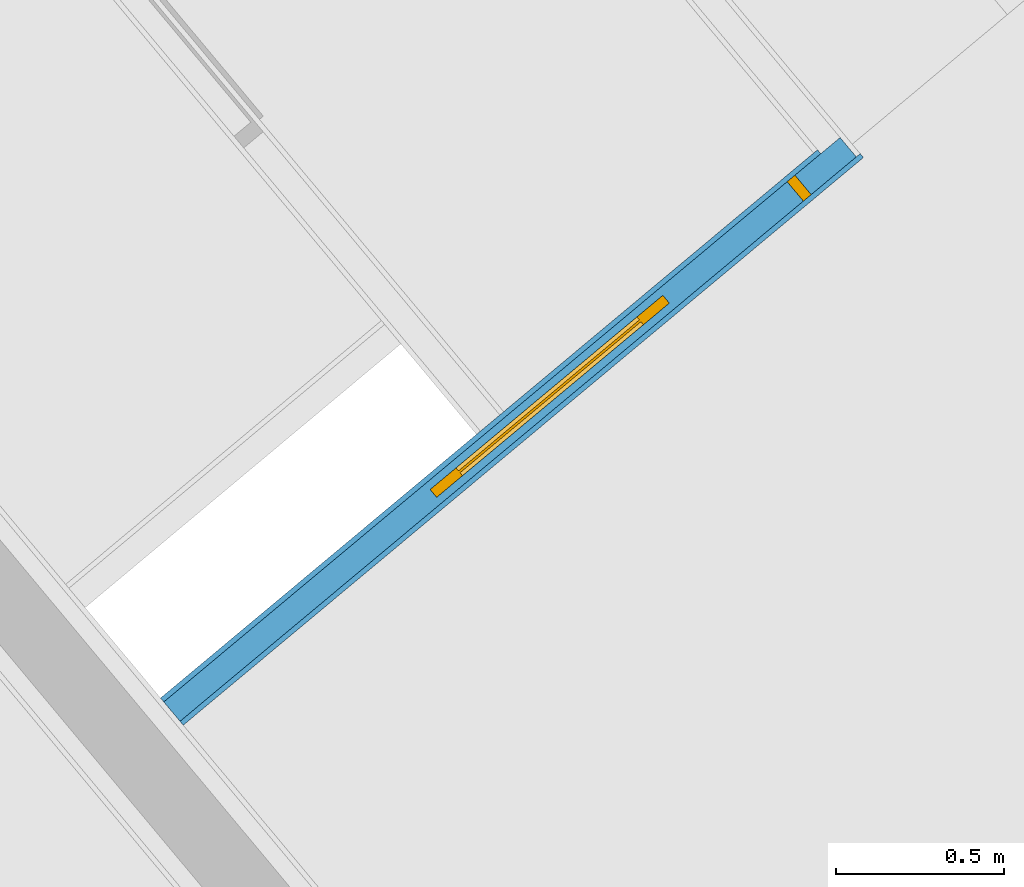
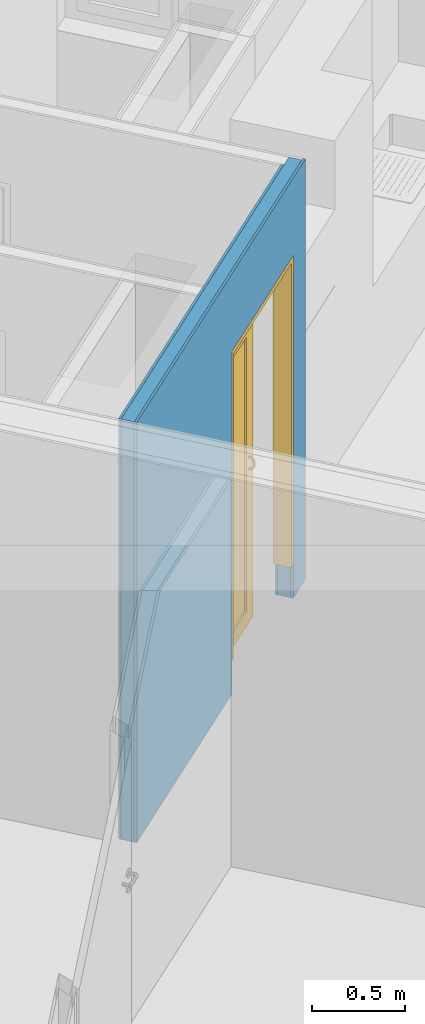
# One storey, part 15 of 75: 3 building element parts, 1 door, 1 opening, 1 element without a shape of its own.
"""IFC4 building model written with IfcOpenShell, lengths in metres."""

from ifc_helpers import new_model, entity, si_unit, converted_unit, derived_unit, direction, frame, origin_with_axes, place, context, subcontext, project, spatial, polygons, source, transform, mapped, material, type_object, element, fill, aggregate, save


model = new_model("IFC4")

# Units and contexts
model_context = context("Model", 3, precision=1e-05, world=origin_with_axes(), true_north=direction((0.0, 1.0)))
body_context = subcontext(model_context, "Body", "Model", "MODEL_VIEW")
ifc_project = project(units=[si_unit("LENGTHUNIT", "METRE"), si_unit("AREAUNIT", "SQUARE_METRE"), si_unit("VOLUMEUNIT", "CUBIC_METRE"), converted_unit("PLANEANGLEUNIT", "DEGREE", entity("IfcPlaneAngleMeasure", 0.0174532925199), si_unit("PLANEANGLEUNIT", "RADIAN"), dimensions=[0, 0, 0, 0, 0, 0, 0]), converted_unit("TIMEUNIT", "Year", entity("IfcTimeMeasure", 31556926.0), si_unit("TIMEUNIT", "SECOND"), dimensions=[0, 0, 1, 0, 0, 0, 0]), si_unit("MASSUNIT", "GRAM", prefix="KILO"), si_unit("THERMODYNAMICTEMPERATUREUNIT", "DEGREE_CELSIUS"), si_unit("LUMINOUSINTENSITYUNIT", "LUMEN"), si_unit("ENERGYUNIT", "JOULE", prefix="MEGA"), derived_unit("THERMALCONDUCTANCEUNIT", [(si_unit("POWERUNIT", "WATT"), 1), (si_unit("LENGTHUNIT", "METRE"), -1), (si_unit("THERMODYNAMICTEMPERATUREUNIT", "KELVIN"), -1)]), derived_unit("SPECIFICHEATCAPACITYUNIT", [(si_unit("ENERGYUNIT", "JOULE"), 1), (si_unit("MASSUNIT", "GRAM", prefix="KILO"), -1), (si_unit("THERMODYNAMICTEMPERATUREUNIT", "KELVIN"), -1)]), derived_unit("MASSDENSITYUNIT", [(si_unit("MASSUNIT", "GRAM", prefix="KILO"), 1), (si_unit("VOLUMEUNIT", "CUBIC_METRE"), -1)])], contexts=[model_context])

# Site, building, storey
site_placement = place(None, frame((-0.00153261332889, -0.00661245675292, 0.0), z_axis=(0.0, 0.0, 1.0), x_axis=(1.0, 0.0, 0.0)))
site = spatial("IfcSite", under=ifc_project, at=site_placement, Name="Gelände", CompositionType="ELEMENT")
building_placement = place(site_placement, origin_with_axes())
building = spatial("IfcBuilding", under=site, at=building_placement, Name="Gebäude", CompositionType="ELEMENT")
storey_placement = place(building_placement, frame((0.0, 0.0, -0.22), z_axis=(0.0, 0.0, 1.0), x_axis=(1.0, 0.0, 0.0)))
storey = spatial("IfcBuildingStorey", under=building, at=storey_placement, Name="EG", CompositionType="ELEMENT", Elevation=-0.22)

# Door
door_type = type_object("IfcDoorType", Name="Schiebetür 02 1-Fl 26", OperationType="SLIDING_TO_RIGHT", PredefinedType="NOTDEFINED")
shared_shape = source(origin_with_axes(), body_context, "Body", "Tessellation", [
    polygons([(-0.48, 0.0, 0.0), (-0.48, 0.0, 2.03), (0.48, 0.0, 2.03), (0.48, 0.0, 0.0), (0.45, 0.0, 0.0), (0.45, 0.0, 2.0), (-0.45, 0.0, 2.0), (-0.45, 0.0, 0.0)], [[[1, 2, 3, 4, 5, 6, 7, 8]]], closed=False),
    polygons([(-0.45, -0.09, 0.0), (-0.45, -0.09, 2.0), (-0.45, -0.105, 2.0), (-0.45, -0.105, 0.0), (-0.48, -0.09, 0.0), (-0.48, -0.09, 2.0), (-0.48, -0.015, 2.0), (-0.45, -0.015, 2.0), (-0.45, 0.0, 2.0), (0.45, 0.0, 2.0), (0.45, -0.105, 2.0), (0.48, -0.105, 0.0), (0.48, -0.105, 2.03), (-0.48, -0.105, 2.03), (-0.48, -0.105, 0.0), (0.45, -0.105, 0.0), (-0.48, 0.0, 2.03), (-0.48, 0.0, 0.0), (-0.48, -0.015, 0.0), (-0.45, -0.015, 0.0), (-0.45, 0.0, 0.0), (0.48, 0.0, 2.03), (0.48, 0.0, 0.0), (0.45, 0.0, 0.0)], [[[1, 2, 3, 4]], [[2, 1, 5, 6]], [[2, 6, 7, 8, 9, 10, 11, 3]], [[12, 13, 14, 15, 4, 3, 11, 16]], [[5, 1, 4, 15]], [[6, 5, 15, 14, 17, 18, 19, 7]], [[20, 8, 7, 19]], [[8, 20, 21, 9]], [[10, 9, 21, 18, 17, 22, 23, 24]], [[24, 16, 11, 10]], [[22, 13, 12, 23]], [[17, 14, 13, 22]], [[23, 12, 16, 24]], [[20, 19, 18, 21]]], closed=True),
    polygons([(-0.48, -0.105, 0.0), (-0.48, -0.105, 2.03), (0.48, -0.105, 2.03), (0.48, -0.105, 0.0), (0.45, -0.105, 0.0), (0.45, -0.105, 2.0), (-0.45, -0.105, 2.0), (-0.45, -0.105, 0.0)], [[[1, 2, 3, 4, 5, 6, 7, 8]]], closed=False),
    polygons([(-0.94995, -0.0375, 0.1), (-0.84995, -0.0375, 0.1), (-0.84995, -0.0675, 0.1), (-0.94995, -0.0675, 0.1), (-0.94995, -0.0375, 1.8999), (-0.84995, -0.0375, 1.8999), (-0.84995, -0.0675, 1.8999), (-0.94995, -0.0675, 1.8999)], [[[1, 2, 3, 4]], [[1, 5, 6, 2]], [[2, 6, 7, 3]], [[4, 3, 7, 8]], [[5, 1, 4, 8]], [[6, 5, 8, 7]]], closed=True),
    polygons([(-0.05005, -0.0375, 1.8999), (-0.15005, -0.0375, 1.8999), (-0.15005, -0.0675, 1.8999), (-0.05005, -0.0675, 1.8999), (-0.05005, -0.0375, 0.1), (-0.15005, -0.0375, 0.1), (-0.15005, -0.0675, 0.1), (-0.05005, -0.0675, 0.1)], [[[1, 2, 3, 4]], [[1, 5, 6, 2]], [[2, 6, 7, 3]], [[4, 3, 7, 8]], [[5, 1, 4, 8]], [[6, 5, 8, 7]]], closed=True),
    polygons([(-0.05005, -0.0375, 0.0), (-0.05005, -0.0375, 0.1), (-0.05005, -0.0675, 0.1), (-0.05005, -0.0675, 0.0), (-0.94995, -0.0375, 0.0), (-0.94995, -0.0375, 0.1), (-0.84995, -0.0375, 0.1), (-0.15005, -0.0375, 0.1), (-0.15005, -0.0675, 0.1), (-0.84995, -0.0675, 0.1), (-0.94995, -0.0675, 0.1), (-0.94995, -0.0675, 0.0)], [[[1, 2, 3, 4]], [[1, 5, 6, 7, 8, 2]], [[2, 8, 9, 3]], [[4, 3, 9, 10, 11, 12]], [[5, 1, 4, 12]], [[6, 5, 12, 11]], [[7, 6, 11, 10]], [[8, 7, 10, 9]]], closed=True),
    polygons([(-0.94995, -0.0375, 1.9999), (-0.94995, -0.0375, 1.8999), (-0.94995, -0.0675, 1.8999), (-0.94995, -0.0675, 1.9999), (-0.05005, -0.0375, 1.9999), (-0.05005, -0.0375, 1.8999), (-0.15005, -0.0375, 1.8999), (-0.84995, -0.0375, 1.8999), (-0.84995, -0.0675, 1.8999), (-0.15005, -0.0675, 1.8999), (-0.05005, -0.0675, 1.8999), (-0.05005, -0.0675, 1.9999)], [[[1, 2, 3, 4]], [[1, 5, 6, 7, 8, 2]], [[2, 8, 9, 3]], [[4, 3, 9, 10, 11, 12]], [[5, 1, 4, 12]], [[6, 5, 12, 11]], [[7, 6, 11, 10]], [[8, 7, 10, 9]]], closed=True),
    polygons([(-0.84995, -0.049, 0.1), (-0.15005, -0.049, 0.1), (-0.15005, -0.056, 0.1), (-0.84995, -0.056, 0.1), (-0.84995, -0.049, 1.8999), (-0.15005, -0.049, 1.8999), (-0.15005, -0.056, 1.8999), (-0.84995, -0.056, 1.8999)], [[[1, 2, 3, 4]], [[1, 5, 6, 2]], [[2, 6, 7, 3]], [[4, 3, 7, 8]], [[5, 1, 4, 8]], [[6, 5, 8, 7]]], closed=True),
    polygons([(-0.11705, -0.0825, 1.08598076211), (-0.116112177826, -0.08425, 1.08901185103), (-0.116112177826, -0.0675, 1.0935), (-0.11705, -0.0675, 1.09), (-0.11705, -0.0934807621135, 1.075), (-0.116112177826, -0.0965118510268, 1.07675), (-0.11355, -0.0855310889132, 1.09123076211), (-0.11355, -0.0675, 1.09606217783), (-0.11005, -0.0675, 1.097), (-0.10655, -0.0675, 1.09606217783), (-0.103987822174, -0.0675, 1.0935), (-0.10305, -0.0675, 1.09), (-0.103987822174, -0.0675, 1.0865), (-0.10655, -0.0675, 1.08393782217), (-0.11005, -0.0675, 1.083), (-0.11355, -0.0675, 1.08393782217), (-0.116112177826, -0.0675, 1.0865), (-0.116112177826, -0.08075, 1.0829496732), (-0.11705, -0.0975, 1.06), (-0.116112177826, -0.101, 1.06), (-0.11355, -0.0987307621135, 1.07803108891), (-0.116112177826, -0.0904496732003, 1.07325), (-0.11005, -0.086, 1.09204293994), (-0.10655, -0.0855310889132, 1.09123076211), (-0.103987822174, -0.08425, 1.08901185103), (-0.10305, -0.0825, 1.08598076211), (-0.103987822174, -0.08075, 1.0829496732), (-0.10655, -0.0794689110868, 1.08073076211), (-0.11005, -0.079, 1.07991858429), (-0.11355, -0.0794689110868, 1.08073076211), (-0.116112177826, -0.094, 1.06), (-0.11355, -0.0914378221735, 1.06), (-0.11005, -0.0905, 1.06), (-0.10655, -0.0914378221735, 1.06), (-0.103987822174, -0.094, 1.06), (-0.10305, -0.0975, 1.06), (-0.103987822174, -0.101, 1.06), (-0.10655, -0.103562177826, 1.06), (-0.11005, -0.1045, 1.06), (-0.11355, -0.103562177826, 1.06), (-0.11005, -0.09954293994, 1.0785), (-0.11355, -0.0882307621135, 1.07196891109), (-0.10655, -0.0987307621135, 1.07803108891), (-0.103987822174, -0.0965118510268, 1.07675), (-0.10305, -0.0934807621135, 1.075), (-0.103987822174, -0.0904496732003, 1.07325), (-0.10655, -0.0882307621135, 1.07196891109), (-0.11005, -0.087418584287, 1.0715)], [[[1, 2, 3, 4]], [[5, 6, 2, 1]], [[2, 7, 8, 3]], [[4, 3, 8, 9, 10, 11, 12, 13, 14, 15, 16, 17]], [[18, 1, 4, 17]], [[19, 20, 6, 5]], [[6, 21, 7, 2]], [[22, 5, 1, 18]], [[7, 23, 9, 8]], [[23, 24, 10, 9]], [[24, 25, 11, 10]], [[25, 26, 12, 11]], [[26, 27, 13, 12]], [[27, 28, 14, 13]], [[28, 29, 15, 14]], [[29, 30, 16, 15]], [[30, 18, 17, 16]], [[19, 31, 32, 33, 34, 35, 36, 37, 38, 39, 40, 20]], [[20, 40, 21, 6]], [[31, 19, 5, 22]], [[21, 41, 23, 7]], [[42, 22, 18, 30]], [[41, 43, 24, 23]], [[43, 44, 25, 24]], [[44, 45, 26, 25]], [[45, 46, 27, 26]], [[46, 47, 28, 27]], [[47, 48, 29, 28]], [[48, 42, 30, 29]], [[32, 31, 22, 42]], [[33, 32, 42, 48]], [[34, 33, 48, 47]], [[35, 34, 47, 46]], [[36, 35, 46, 45]], [[37, 36, 45, 44]], [[38, 37, 44, 43]], [[39, 38, 43, 41]], [[40, 39, 41, 21]]], closed=True),
    polygons([(-0.10305, -0.0825, 1.01401923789), (-0.103987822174, -0.08425, 1.01098814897), (-0.103987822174, -0.0675, 1.0065), (-0.10305, -0.0675, 1.01), (-0.10305, -0.0934807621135, 1.025), (-0.103987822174, -0.0965118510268, 1.02325), (-0.10655, -0.0855310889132, 1.00876923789), (-0.10655, -0.0675, 1.00393782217), (-0.11005, -0.0675, 1.003), (-0.11355, -0.0675, 1.00393782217), (-0.116112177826, -0.0675, 1.0065), (-0.11705, -0.0675, 1.01), (-0.116112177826, -0.0675, 1.0135), (-0.11355, -0.0675, 1.01606217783), (-0.11005, -0.0675, 1.017), (-0.10655, -0.0675, 1.01606217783), (-0.103987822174, -0.0675, 1.0135), (-0.103987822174, -0.08075, 1.0170503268), (-0.10305, -0.0975, 1.04), (-0.103987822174, -0.101, 1.04), (-0.10655, -0.0987307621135, 1.02196891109), (-0.103987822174, -0.0904496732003, 1.02675), (-0.11005, -0.086, 1.00795706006), (-0.11355, -0.0855310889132, 1.00876923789), (-0.116112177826, -0.08425, 1.01098814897), (-0.11705, -0.0825, 1.01401923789), (-0.116112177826, -0.08075, 1.0170503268), (-0.11355, -0.0794689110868, 1.01926923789), (-0.11005, -0.079, 1.02008141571), (-0.10655, -0.0794689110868, 1.01926923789), (-0.103987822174, -0.094, 1.04), (-0.10655, -0.0914378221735, 1.04), (-0.11005, -0.0905, 1.04), (-0.11355, -0.0914378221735, 1.04), (-0.116112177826, -0.094, 1.04), (-0.11705, -0.0975, 1.04), (-0.116112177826, -0.101, 1.04), (-0.11355, -0.103562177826, 1.04), (-0.11005, -0.1045, 1.04), (-0.10655, -0.103562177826, 1.04), (-0.11005, -0.09954293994, 1.0215), (-0.10655, -0.0882307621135, 1.02803108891), (-0.11355, -0.0987307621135, 1.02196891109), (-0.116112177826, -0.0965118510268, 1.02325), (-0.11705, -0.0934807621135, 1.025), (-0.116112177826, -0.0904496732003, 1.02675), (-0.11355, -0.0882307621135, 1.02803108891), (-0.11005, -0.087418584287, 1.0285)], [[[1, 2, 3, 4]], [[5, 6, 2, 1]], [[2, 7, 8, 3]], [[4, 3, 8, 9, 10, 11, 12, 13, 14, 15, 16, 17]], [[18, 1, 4, 17]], [[19, 20, 6, 5]], [[6, 21, 7, 2]], [[22, 5, 1, 18]], [[7, 23, 9, 8]], [[23, 24, 10, 9]], [[24, 25, 11, 10]], [[25, 26, 12, 11]], [[26, 27, 13, 12]], [[27, 28, 14, 13]], [[28, 29, 15, 14]], [[29, 30, 16, 15]], [[30, 18, 17, 16]], [[19, 31, 32, 33, 34, 35, 36, 37, 38, 39, 40, 20]], [[20, 40, 21, 6]], [[31, 19, 5, 22]], [[21, 41, 23, 7]], [[42, 22, 18, 30]], [[41, 43, 24, 23]], [[43, 44, 25, 24]], [[44, 45, 26, 25]], [[45, 46, 27, 26]], [[46, 47, 28, 27]], [[47, 48, 29, 28]], [[48, 42, 30, 29]], [[32, 31, 22, 42]], [[33, 32, 42, 48]], [[34, 33, 48, 47]], [[35, 34, 47, 46]], [[36, 35, 46, 45]], [[37, 36, 45, 44]], [[38, 37, 44, 43]], [[39, 38, 43, 41]], [[40, 39, 41, 21]]], closed=True),
    polygons([(-0.11705, -0.0975, 1.04), (-0.11705, -0.0975, 1.06), (-0.116112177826, -0.094, 1.06), (-0.116112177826, -0.094, 1.04), (-0.116112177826, -0.101, 1.04), (-0.116112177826, -0.101, 1.06), (-0.11355, -0.103562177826, 1.06), (-0.11005, -0.1045, 1.06), (-0.10655, -0.103562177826, 1.06), (-0.103987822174, -0.101, 1.06), (-0.10305, -0.0975, 1.06), (-0.103987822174, -0.094, 1.06), (-0.10655, -0.0914378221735, 1.06), (-0.11005, -0.0905, 1.06), (-0.11355, -0.0914378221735, 1.06), (-0.11355, -0.0914378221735, 1.04), (-0.11005, -0.0905, 1.04), (-0.10655, -0.0914378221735, 1.04), (-0.103987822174, -0.094, 1.04), (-0.10305, -0.0975, 1.04), (-0.103987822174, -0.101, 1.04), (-0.10655, -0.103562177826, 1.04), (-0.11005, -0.1045, 1.04), (-0.11355, -0.103562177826, 1.04)], [[[1, 2, 3, 4]], [[5, 6, 2, 1]], [[2, 6, 7, 8, 9, 10, 11, 12, 13, 14, 15, 3]], [[4, 3, 15, 16]], [[1, 4, 16, 17, 18, 19, 20, 21, 22, 23, 24, 5]], [[24, 7, 6, 5]], [[23, 8, 7, 24]], [[22, 9, 8, 23]], [[21, 10, 9, 22]], [[20, 11, 10, 21]], [[19, 12, 11, 20]], [[18, 13, 12, 19]], [[17, 14, 13, 18]], [[16, 15, 14, 17]]], closed=True),
    polygons([(-0.11705, -0.0225, 1.08598076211), (-0.11705, -0.0375, 1.09), (-0.116112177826, -0.0375, 1.0935), (-0.116112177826, -0.02075, 1.08901185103), (-0.116112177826, -0.02425, 1.0829496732), (-0.116112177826, -0.0375, 1.0865), (-0.11355, -0.0375, 1.08393782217), (-0.11005, -0.0375, 1.083), (-0.10655, -0.0375, 1.08393782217), (-0.103987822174, -0.0375, 1.0865), (-0.10305, -0.0375, 1.09), (-0.103987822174, -0.0375, 1.0935), (-0.10655, -0.0375, 1.09606217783), (-0.11005, -0.0375, 1.097), (-0.11355, -0.0375, 1.09606217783), (-0.11355, -0.0194689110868, 1.09123076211), (-0.11705, -0.0115192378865, 1.075), (-0.116112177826, -0.00848814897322, 1.07675), (-0.11355, -0.0255310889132, 1.08073076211), (-0.116112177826, -0.0145503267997, 1.07325), (-0.11005, -0.026, 1.07991858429), (-0.10655, -0.0255310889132, 1.08073076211), (-0.103987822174, -0.02425, 1.0829496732), (-0.10305, -0.0225, 1.08598076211), (-0.103987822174, -0.02075, 1.08901185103), (-0.10655, -0.0194689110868, 1.09123076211), (-0.11005, -0.019, 1.09204293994), (-0.11355, -0.00626923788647, 1.07803108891), (-0.11705, -0.0075, 1.06), (-0.116112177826, -0.004, 1.06), (-0.11355, -0.0167692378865, 1.07196891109), (-0.116112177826, -0.011, 1.06), (-0.11005, -0.017581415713, 1.0715), (-0.10655, -0.0167692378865, 1.07196891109), (-0.103987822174, -0.0145503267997, 1.07325), (-0.10305, -0.0115192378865, 1.075), (-0.103987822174, -0.00848814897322, 1.07675), (-0.10655, -0.00626923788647, 1.07803108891), (-0.11005, -0.00545706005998, 1.0785), (-0.11355, -0.00143782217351, 1.06), (-0.11005, -0.0005, 1.06), (-0.10655, -0.00143782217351, 1.06), (-0.103987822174, -0.004, 1.06), (-0.10305, -0.0075, 1.06), (-0.103987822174, -0.011, 1.06), (-0.10655, -0.0135621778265, 1.06), (-0.11005, -0.0145, 1.06), (-0.11355, -0.0135621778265, 1.06)], [[[1, 2, 3, 4]], [[5, 6, 2, 1]], [[2, 6, 7, 8, 9, 10, 11, 12, 13, 14, 15, 3]], [[4, 3, 15, 16]], [[17, 1, 4, 18]], [[19, 7, 6, 5]], [[20, 5, 1, 17]], [[21, 8, 7, 19]], [[22, 9, 8, 21]], [[23, 10, 9, 22]], [[24, 11, 10, 23]], [[25, 12, 11, 24]], [[26, 13, 12, 25]], [[27, 14, 13, 26]], [[16, 15, 14, 27]], [[18, 4, 16, 28]], [[29, 17, 18, 30]], [[31, 19, 5, 20]], [[32, 20, 17, 29]], [[33, 21, 19, 31]], [[34, 22, 21, 33]], [[35, 23, 22, 34]], [[36, 24, 23, 35]], [[37, 25, 24, 36]], [[38, 26, 25, 37]], [[39, 27, 26, 38]], [[28, 16, 27, 39]], [[30, 18, 28, 40]], [[29, 30, 40, 41, 42, 43, 44, 45, 46, 47, 48, 32]], [[48, 31, 20, 32]], [[47, 33, 31, 48]], [[46, 34, 33, 47]], [[45, 35, 34, 46]], [[44, 36, 35, 45]], [[43, 37, 36, 44]], [[42, 38, 37, 43]], [[41, 39, 38, 42]], [[40, 28, 39, 41]]], closed=True),
    polygons([(-0.10305, -0.0225, 1.01401923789), (-0.10305, -0.0375, 1.01), (-0.103987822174, -0.0375, 1.0065), (-0.103987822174, -0.02075, 1.01098814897), (-0.103987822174, -0.02425, 1.0170503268), (-0.103987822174, -0.0375, 1.0135), (-0.10655, -0.0375, 1.01606217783), (-0.11005, -0.0375, 1.017), (-0.11355, -0.0375, 1.01606217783), (-0.116112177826, -0.0375, 1.0135), (-0.11705, -0.0375, 1.01), (-0.116112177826, -0.0375, 1.0065), (-0.11355, -0.0375, 1.00393782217), (-0.11005, -0.0375, 1.003), (-0.10655, -0.0375, 1.00393782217), (-0.10655, -0.0194689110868, 1.00876923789), (-0.10305, -0.0115192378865, 1.025), (-0.103987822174, -0.00848814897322, 1.02325), (-0.10655, -0.0255310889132, 1.01926923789), (-0.103987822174, -0.0145503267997, 1.02675), (-0.11005, -0.026, 1.02008141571), (-0.11355, -0.0255310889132, 1.01926923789), (-0.116112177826, -0.02425, 1.0170503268), (-0.11705, -0.0225, 1.01401923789), (-0.116112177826, -0.02075, 1.01098814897), (-0.11355, -0.0194689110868, 1.00876923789), (-0.11005, -0.019, 1.00795706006), (-0.10655, -0.00626923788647, 1.02196891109), (-0.10305, -0.0075, 1.04), (-0.103987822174, -0.004, 1.04), (-0.10655, -0.0167692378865, 1.02803108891), (-0.103987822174, -0.011, 1.04), (-0.11005, -0.017581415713, 1.0285), (-0.11355, -0.0167692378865, 1.02803108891), (-0.116112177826, -0.0145503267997, 1.02675), (-0.11705, -0.0115192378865, 1.025), (-0.116112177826, -0.00848814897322, 1.02325), (-0.11355, -0.00626923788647, 1.02196891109), (-0.11005, -0.00545706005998, 1.0215), (-0.10655, -0.00143782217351, 1.04), (-0.11005, -0.0005, 1.04), (-0.11355, -0.00143782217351, 1.04), (-0.116112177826, -0.004, 1.04), (-0.11705, -0.0075, 1.04), (-0.116112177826, -0.011, 1.04), (-0.11355, -0.0135621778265, 1.04), (-0.11005, -0.0145, 1.04), (-0.10655, -0.0135621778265, 1.04)], [[[1, 2, 3, 4]], [[5, 6, 2, 1]], [[2, 6, 7, 8, 9, 10, 11, 12, 13, 14, 15, 3]], [[4, 3, 15, 16]], [[17, 1, 4, 18]], [[19, 7, 6, 5]], [[20, 5, 1, 17]], [[21, 8, 7, 19]], [[22, 9, 8, 21]], [[23, 10, 9, 22]], [[24, 11, 10, 23]], [[25, 12, 11, 24]], [[26, 13, 12, 25]], [[27, 14, 13, 26]], [[16, 15, 14, 27]], [[18, 4, 16, 28]], [[29, 17, 18, 30]], [[31, 19, 5, 20]], [[32, 20, 17, 29]], [[33, 21, 19, 31]], [[34, 22, 21, 33]], [[35, 23, 22, 34]], [[36, 24, 23, 35]], [[37, 25, 24, 36]], [[38, 26, 25, 37]], [[39, 27, 26, 38]], [[28, 16, 27, 39]], [[30, 18, 28, 40]], [[29, 30, 40, 41, 42, 43, 44, 45, 46, 47, 48, 32]], [[48, 31, 20, 32]], [[47, 33, 31, 48]], [[46, 34, 33, 47]], [[45, 35, 34, 46]], [[44, 36, 35, 45]], [[43, 37, 36, 44]], [[42, 38, 37, 43]], [[41, 39, 38, 42]], [[40, 28, 39, 41]]], closed=True),
    polygons([(-0.11705, -0.0075, 1.04), (-0.116112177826, -0.011, 1.04), (-0.116112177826, -0.011, 1.06), (-0.11705, -0.0075, 1.06), (-0.116112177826, -0.004, 1.04), (-0.11355, -0.00143782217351, 1.04), (-0.11005, -0.0005, 1.04), (-0.10655, -0.00143782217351, 1.04), (-0.103987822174, -0.004, 1.04), (-0.10305, -0.0075, 1.04), (-0.103987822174, -0.011, 1.04), (-0.10655, -0.0135621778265, 1.04), (-0.11005, -0.0145, 1.04), (-0.11355, -0.0135621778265, 1.04), (-0.11355, -0.0135621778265, 1.06), (-0.11005, -0.0145, 1.06), (-0.10655, -0.0135621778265, 1.06), (-0.103987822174, -0.011, 1.06), (-0.10305, -0.0075, 1.06), (-0.103987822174, -0.004, 1.06), (-0.10655, -0.00143782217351, 1.06), (-0.11005, -0.0005, 1.06), (-0.11355, -0.00143782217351, 1.06), (-0.116112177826, -0.004, 1.06)], [[[1, 2, 3, 4]], [[1, 5, 6, 7, 8, 9, 10, 11, 12, 13, 14, 2]], [[2, 14, 15, 3]], [[4, 3, 15, 16, 17, 18, 19, 20, 21, 22, 23, 24]], [[5, 1, 4, 24]], [[6, 5, 24, 23]], [[7, 6, 23, 22]], [[8, 7, 22, 21]], [[9, 8, 21, 20]], [[10, 9, 20, 19]], [[11, 10, 19, 18]], [[12, 11, 18, 17]], [[13, 12, 17, 16]], [[14, 13, 16, 15]]], closed=True),
])
wall_placement = place(storey_placement, frame((4.75634479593, 20.7201278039, 0.0), z_axis=(0.0, 0.0, 1.0), x_axis=(0.767768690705, 0.640727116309, 0.0)))
opening_placement = place(wall_placement, frame((2.0266659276, 0.0, 0.22), z_axis=(0.0, 0.0, 1.0), x_axis=(1.0, 0.0, 0.0)))
door_placement = place(opening_placement, frame((-0.45, 0.0, 0.0), z_axis=(0.0, 0.0, 1.0), x_axis=(1.0, 0.0, 0.0)))
door = element("IfcDoor", 1, at=door_placement, inside=storey, type_object=door_type, Name="Tür-001", OverallHeight=2.25, OverallWidth=0.96, PredefinedType="NOTDEFINED", context=body_context, shape_type="MappedRepresentation", body=[
    mapped(shared_shape, transform((0.45, 0.105, 0.0))),
])

# Wall, opening
wall_type = type_object("IfcWallType", Name="IW LB 01 Leichtbautrennwand einfach 10,5 cm 105", PredefinedType="NOTDEFINED")
wall = element("IfcWall", 2, at=wall_placement, inside=storey, type_object=wall_type, Name="Wand-012", PredefinedType="NOTDEFINED")
opening = element("IfcOpeningElement", 3, at=opening_placement, cuts=wall, Name="Tür-001", context=body_context, identifier="Reference", shape_type="Tessellation", body=[
    polygons([(-0.48, -1.32747549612, -0.22), (-0.48, -1.32747549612, 2.03), (-0.48, 1.43247549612, 2.03), (-0.48, 1.43247549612, -0.22), (-0.48, 0.09, 2.0), (-0.48, 0.015, 2.0), (-0.48, 0.015, 0.0), (-0.48, 0.09, 0.0), (0.48, -1.32747549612, -0.22), (0.48, -1.32747549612, 2.03), (0.48, 1.43247549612, 2.03), (0.48, 1.43247549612, -0.22), (-1.44, 0.09, 2.0), (-1.44, 0.015, 2.0), (-1.44, 0.015, 0.0), (-1.44, 0.09, 0.0)], [[[1, 2, 3, 4], [5, 6, 7, 8]], [[1, 9, 10, 2]], [[2, 10, 11, 3]], [[11, 12, 4, 3]], [[9, 1, 4, 12]], [[6, 5, 13, 14]], [[7, 6, 14, 15]], [[8, 7, 15, 16]], [[5, 8, 16, 13]], [[10, 9, 12, 11]], [[14, 13, 16, 15]]], closed=True),
])

fill(opening, door)

# Building element part
ifc_material_1 = material(Name="Gipskarton")
building_element_part_1_placement = place(wall_placement, origin_with_axes())
building_element_part_1 = element("IfcBuildingElementPart", 4, at=building_element_part_1_placement, material=ifc_material_1, Name="Gipskarton", PredefinedType="NOTDEFINED", context=body_context, shape_type="Tessellation", body=[
    polygons([(1.5466659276, 0.09, 0.22), (1.5466659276, 0.0899999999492, 2.25), (2.5066659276, 0.0899999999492, 2.25), (2.5066659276, 0.09, 0.22), (2.50666590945, 0.0899999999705, 0.0), (2.6064142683, 0.09, 0.0), (2.6064142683, 0.09, 2.76), (0.0649861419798, 0.0899999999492, 2.76), (0.0649861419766, 0.0899999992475, 0.0), (1.5466659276, 0.0899999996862, 0.0), (1.5466659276, 0.104999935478, 0.22), (1.5466659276, 0.105, 2.25), (2.5066659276, 0.105, 2.25), (2.5066659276, 0.104999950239, 0.22), (2.5066659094, 0.104999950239, 0.0), (2.60640484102, 0.105, 0.0), (2.60640484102, 0.105, 2.76), (1.28733376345, 0.105, 2.76), (0.0649838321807, 0.105, 2.76), (0.0649838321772, 0.104999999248, 0.0), (1.5466659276, 0.104999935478, 0.0)], [[[1, 2, 3, 4, 5, 6, 7, 8, 9, 10]], [[2, 1, 11, 12]], [[3, 2, 12, 13]], [[4, 3, 13, 14]], [[4, 14, 15, 5]], [[15, 16, 6, 5]], [[7, 6, 16, 17]], [[8, 7, 17, 18, 19]], [[19, 20, 9, 8]], [[10, 9, 20, 21]], [[11, 1, 10, 21]], [[12, 11, 21, 20, 19, 18, 17, 16, 15, 14, 13]]], closed=True),
])

ifc_material_2 = material(Name="Mineralwolle weich")
building_element_part_2_placement = place(wall_placement, origin_with_axes())
building_element_part_2 = element("IfcBuildingElementPart", 5, at=building_element_part_2_placement, material=ifc_material_2, Name="Mineralwolle weich", PredefinedType="NOTDEFINED", context=body_context, shape_type="Tessellation", body=[
    polygons([(0.586665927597, 0.015, 0.22), (0.586665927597, 0.015, 2.22), (1.5466659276, 0.015, 2.22), (1.5466659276, 0.0149999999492, 2.25), (2.5066659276, 0.0149999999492, 2.25), (2.5066659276, 0.015, 0.22), (2.5066659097, 0.0149999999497, 0.0), (2.68146141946, 0.015, 0.0), (2.68146141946, 0.015, 2.76), (0.0649976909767, 0.0149999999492, 2.76), (0.0649976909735, 0.0149999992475, 0.0), (1.5466659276, 0.0149999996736, 0.0), (1.5466659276, 0.015, 0.22), (0.586665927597, 0.09, 0.22), (0.586665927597, 0.09, 2.22), (1.5466659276, 0.09, 2.22), (1.5466659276, 0.0899999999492, 2.25), (2.5066659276, 0.0899999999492, 2.25), (2.5066659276, 0.0899999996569, 0.22), (2.50666590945, 0.0899999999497, 0.0), (2.68141428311, 0.09, 0.0), (2.68141428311, 0.09, 2.76), (0.0649861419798, 0.0899999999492, 2.76), (0.0649861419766, 0.0899999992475, 0.0), (1.5466659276, 0.0899999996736, 0.0), (1.5466659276, 0.09, 0.22)], [[[1, 2, 3, 4, 5, 6, 7, 8, 9, 10, 11, 12, 13]], [[2, 1, 14, 15]], [[16, 3, 2, 15]], [[3, 16, 17, 4]], [[4, 17, 18, 5]], [[5, 18, 19, 6]], [[19, 20, 7, 6]], [[21, 8, 7, 20]], [[8, 21, 22, 9]], [[10, 9, 22, 23]], [[24, 11, 10, 23]], [[11, 24, 25, 12]], [[26, 13, 12, 25]], [[1, 13, 26, 14]], [[14, 26, 25, 24, 23, 22, 21, 20, 19, 18, 17, 16, 15]]], closed=True),
])

building_element_part_3_placement = place(wall_placement, origin_with_axes())
building_element_part_3 = element("IfcBuildingElementPart", 6, at=building_element_part_3_placement, material=ifc_material_1, Name="Gipskarton", PredefinedType="NOTDEFINED", context=body_context, shape_type="Tessellation", body=[
    polygons([(1.5466659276, 0.0, 0.22), (1.5466659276, 0.0, 2.25), (2.5066659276, 0.0, 2.25), (2.5066659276, 0.0, 0.22), (2.50666590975, 0.0, 0.0), (2.6964708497, 0.0, 0.0), (2.6964708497, 0.0, 2.76), (0.0650000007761, 0.0, 2.76), (0.0650000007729, -7.52478968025e-10, 0.0), (1.5466659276, -3.28791216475e-10, 0.0), (1.5466659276, 0.0149999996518, 0.22), (1.5466659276, 0.0149999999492, 2.25), (2.5066659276, 0.0149999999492, 2.25), (2.5066659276, 0.0149999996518, 0.22), (2.5066659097, 0.0149999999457, 0.0), (2.69646142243, 0.015, 0.0), (2.69646142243, 0.015, 2.76), (0.0649976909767, 0.0149999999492, 2.76), (0.0649976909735, 0.0149999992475, 0.0), (1.5466659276, 0.0149999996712, 0.0)], [[[1, 2, 3, 4, 5, 6, 7, 8, 9, 10]], [[2, 1, 11, 12]], [[3, 2, 12, 13]], [[4, 3, 13, 14]], [[4, 14, 15, 5]], [[15, 16, 6, 5]], [[7, 6, 16, 17]], [[8, 7, 17, 18]], [[18, 19, 9, 8]], [[10, 9, 19, 20]], [[11, 1, 10, 20]], [[12, 11, 20, 19, 18, 17, 16, 15, 14, 13]]], closed=True),
])

aggregate(wall, [building_element_part_1, building_element_part_2, building_element_part_3])

save(model, "model.ifc")
